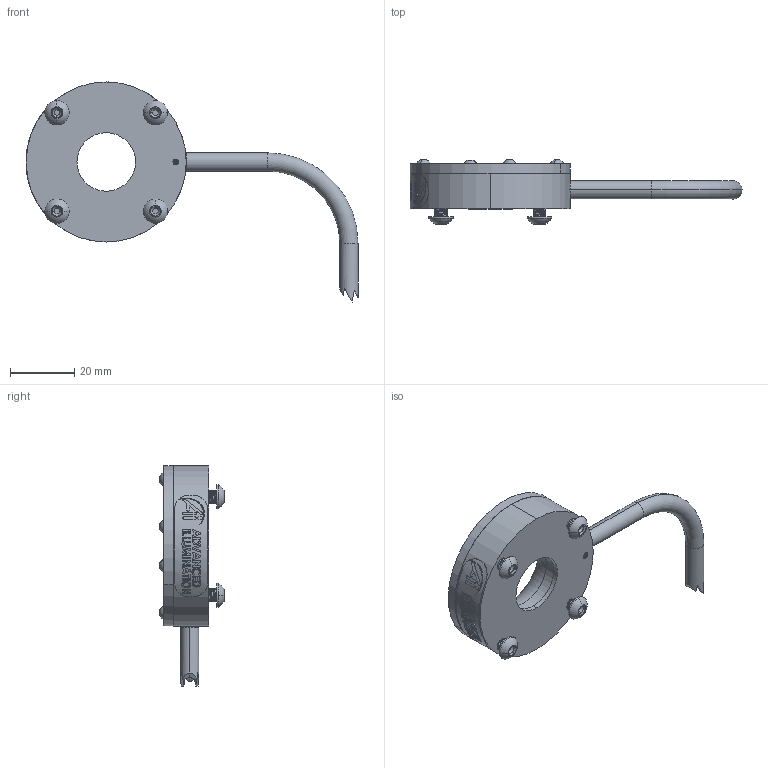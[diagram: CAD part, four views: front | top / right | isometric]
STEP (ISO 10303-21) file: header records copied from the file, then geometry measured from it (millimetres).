
FILE_DESCRIPTION (( 'STEP AP214' ), '1' );
FILE_NAME ('DF198-050.stp', '2023-09-26T20:15:15', ( '' ), ( '' ), 'SwSTEP 2.0', 'SolidWorks 2023', '' );
FILE_SCHEMA (( 'AUTOMOTIVE_DESIGN' ));
Length unit declared in the file: inch
Products named in the file (8): 092773; DF198-050; 091052 DF196-50; 092408_TRUNCATED; BH-M4x8; 092531_91375A076; 092752_Default<As Machined>; BHCS 2-56x.25
Assembly tree (13 placements, depth 2):
  DF198-050
    092752_Default<As Machined>
    092531_91375A076
    092773
    BHCS 2-56x.25  x4
    BH-M4x8  x4
    091052 DF196-50
    092408_TRUNCATED
Bounding box: 103.7 x 20.03 x 68.76 mm (x, y, z)
Volume: 18922.8 mm3; surface area: 17098.4 mm2
Topology: 20 solids, 20 shells, 875 faces, 2180 edges, 1379 vertices
Faces by surface type: cylinder 326, plane 304, cone 111, bspline 110, torus 16, sphere 8
Entity records: 26989 total; most frequent: CARTESIAN_POINT 15131, ORIENTED_EDGE 2610, DIRECTION 2049, EDGE_CURVE 1305, VERTEX_POINT 845, AXIS2_PLACEMENT_3D 810, EDGE_LOOP 600, ADVANCED_FACE 530
